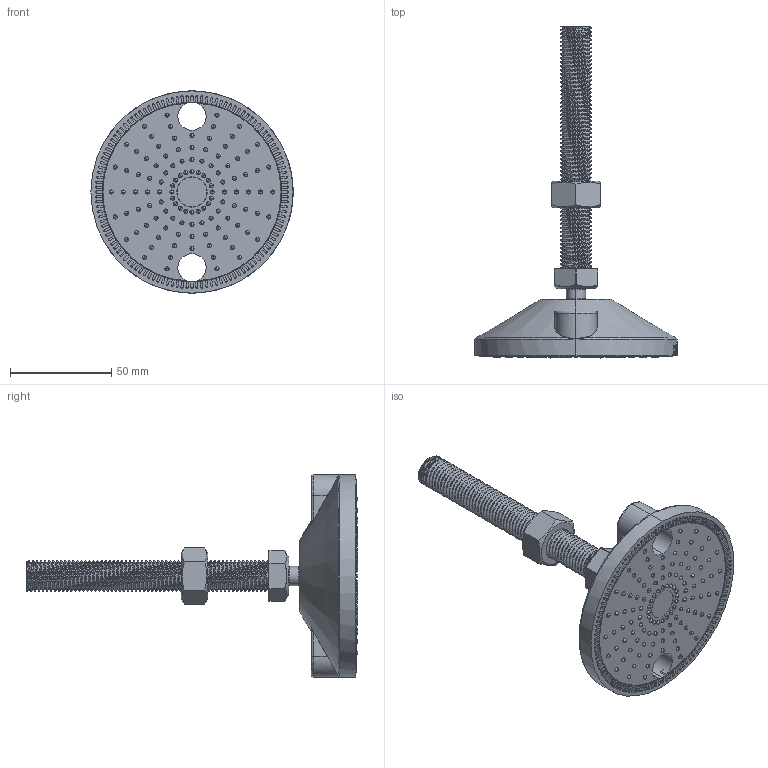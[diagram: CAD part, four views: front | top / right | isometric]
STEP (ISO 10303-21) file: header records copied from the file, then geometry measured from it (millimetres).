
FILE_DESCRIPTION (( 'STEP AP203' ), '1' );
FILE_NAME ('7929.STEP', '2025-12-15T06:22:13', ( '' ), ( '' ), 'SwSTEP 2.0', 'SolidWorks 2022', '' );
FILE_SCHEMA (( 'CONFIG_CONTROL_DESIGN' ));
Length unit declared in the file: millimetre
Products named in the file (4): 7929-2; Гайка DIN934_M16; 7929; 7929-1
Assembly tree (3 placements, depth 2):
  7929
    7929-1
    7929-2
    Гайка DIN934_M16
Bounding box: 100.01 x 164.12 x 100 mm (x, y, z)
Volume: 163669.1 mm3; surface area: 40571.2 mm2
Topology: 4 solids, 4 shells, 1157 faces, 3568 edges, 2296 vertices
Faces by surface type: plane 391, cylinder 362, sphere 246, bspline 128, torus 18, cone 12
Entity records: 56725 total; most frequent: CARTESIAN_POINT 28101, ORIENTED_EDGE 6162, DIRECTION 5751, EDGE_CURVE 3081, AXIS2_PLACEMENT_3D 2261, VERTEX_POINT 2061, EDGE_LOOP 1294, LINE 1229
